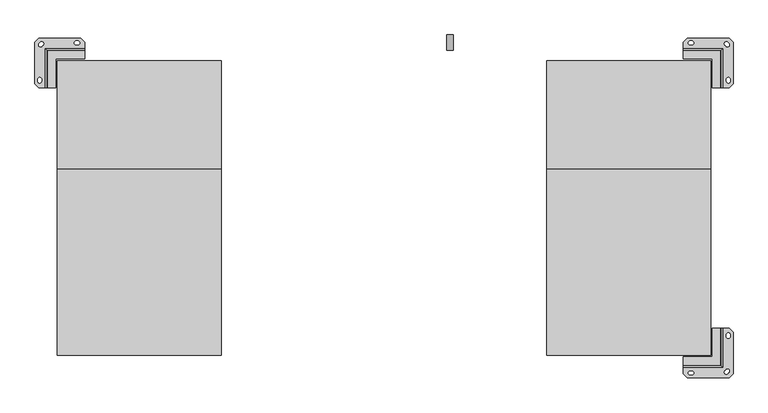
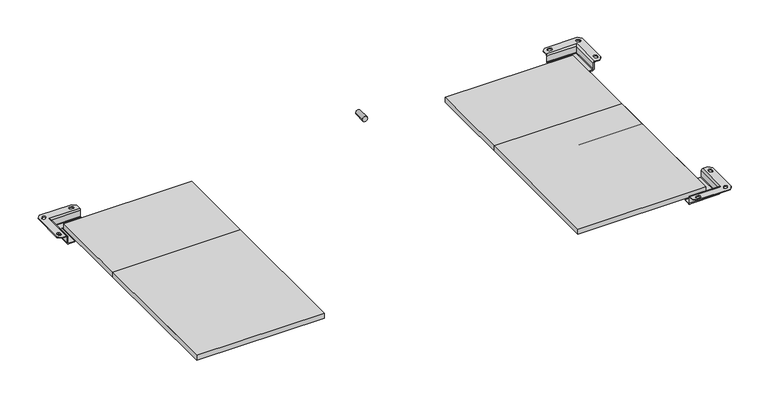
"""IFC4 building model written with IfcOpenShell, lengths in millimetres: proxy geometry, EMC_VEN_CLEVA 2.0_Right_V2 : CLEVA 1500 2.0 Right."""

from ifc_helpers import new_model, si_unit, point, frame, frame_2d, origin, origin_with_axes, place, context, project, spatial, polyline, circle_curve, ellipse_curve, trimmed, segment, composite_curve, outline, extrude, source, transform, mapped, element, save
from ifc_brep_helpers import plane_surface, cylinder_surface, revolved_surface, advanced_brep


def mechanical_equipment_8fb162d6(model_context):
    return source(origin(), model_context, "Body", "SolidModel", [
        extrude(outline(polyline([(495.0, -448.0), (495.0, 118.0), (993.0, 118.0), (993.0, -448.0), (495.0, -448.0)])), origin_with_axes(), (0.0, 0.0, 1.0), 20.0),
        extrude(outline(polyline([(-495.0, -448.0), (-993.0, -448.0), (-993.0, 118.0), (-495.0, 118.0), (-495.0, -448.0)])), origin_with_axes(), (0.0, 0.0, 1.0), 20.0),
        extrude(outline(polyline([(495.0, 448.0), (993.0, 448.0), (993.0, -20.0), (495.0, -20.0), (495.0, 448.0)])), origin_with_axes(), (0.0, 0.0, 1.0), 20.0),
        extrude(outline(polyline([(-495.0, 448.0), (-495.0, -20.0), (-993.0, -20.0), (-993.0, 448.0), (-495.0, 448.0)])), origin_with_axes(), (0.0, 0.0, 1.0), 20.0),
        extrude(outline(polyline([(495.0, -448.0), (495.0, -50.0), (993.0, -50.0), (993.0, -448.0), (495.0, -448.0)])), origin_with_axes(), (0.0, 0.0, 1.0), 20.0),
        extrude(outline(polyline([(-495.0, -448.0), (-993.0, -448.0), (-993.0, -50.0), (-495.0, -50.0), (-495.0, -448.0)])), origin_with_axes(), (0.0, 0.0, 1.0), 20.0),
        extrude(outline(composite_curve([segment(trimmed(circle_curve(frame_2d((15.0, 200.0)), 10.0), [point((15.0, 210.0))], [point((15.0, 190.0))], False, "CARTESIAN"), True, "CONTINUOUS"), segment(trimmed(circle_curve(frame_2d((15.0, 200.0)), 10.0), [point((15.0, 190.0))], [point((15.0, 210.0))], False, "CARTESIAN"), True, "CONTINUOUS")], self_intersect=False)), frame((0.0, 480.0, 0.0), z_axis=(0.0, 1.0, 0.0), x_axis=(0.0, 0.0, 1.0)), (0.0, 0.0, 1.0), 46.0),
        advanced_brep(
        [(1030.9879885, 365.1499884, 32.4276212), (1025.0, 365.1499884, 26.4156337), (1025.0, 365.1499884, 1.8540092), (1022.9960038, 365.1499884, -0.149987), (998.0023908, 365.1499884, -0.149987), (998.0023908, 365.1499884, -3.149981), (1021.9879811, 365.1499884, -3.149981), (1027.9999806, 365.1499884, 2.850007), (1027.999994, 365.1499884, 26.4336329), (1030.9939883, 365.1499884, 29.4276272), (1049.1500152, 365.1499884, 29.4276272), (1049.1500152, 365.1499884, 32.4276212), (1061.1499912, 377.1499898, 29.4276272), (1061.1499912, 504.1499898, 29.4276272), (1061.1499912, 504.1499898, 32.4276212), (1061.1499912, 377.1499898, 32.4276212), (910.1500138, 485.9879885, 32.4276212), (1030.9879885, 485.9879885, 32.4276212), (1049.1500152, 516.1499912, 32.4276212), (922.1500152, 516.1499912, 32.4276212), (910.1500138, 504.1499898, 32.4276212), (935.6500136, 507.6499948, 32.4276212), (935.6380141, 495.6500068, 32.4276212), (930.6619977, 495.6500068, 32.4276212), (930.6499982, 507.6499948, 32.4276212), (1044.8972231, 503.4322052, 32.4276212), (1048.4413867, 499.888067, 32.4276212), (1039.9515297, 491.4073661, 32.4276212), (1036.4119618, 494.9469136, 32.4276212), (1040.6500068, 390.6379887, 32.4276212), (1052.6499948, 390.6499882, 32.4276212), (1052.6500082, 385.6499982, 32.4276212), (1040.6500068, 385.6379987, 32.4276212), (1025.0, 480.0, 26.4156337), (1025.0, 480.0, 1.8540092), (1022.9960038, 477.9960038, -0.149987), (910.1500138, 477.9960038, -0.149987), (910.1500138, 453.0023908, -0.149987), (998.0023908, 453.0023908, -0.149987), (998.0023908, 453.0023908, -3.149981), (910.1500138, 453.0023908, -3.149981), (910.1500138, 476.9879811, -3.149981), (1021.9879811, 476.9879811, -3.149981), (1027.9999806, 482.9999806, 2.850007), (1027.999994, 482.999994, 26.4336329), (1030.9939883, 485.9939883, 29.4276272), (910.1500138, 485.9939883, 29.4276272), (910.1500138, 504.1499898, 29.4276272), (922.1500152, 516.1499912, 29.4276272), (1049.1500152, 516.1499912, 29.4276272), (935.6380141, 495.6500068, 29.4276272), (935.6500136, 507.6499948, 29.4276272), (930.6499982, 507.6500082, 29.4276272), (930.6619977, 495.6500068, 29.4276272), (1048.4413867, 499.888067, 29.4276272), (1044.8972231, 503.4322052, 29.4276272), (1036.4119618, 494.9469136, 29.4276272), (1039.9515195, 491.4073559, 29.4276272), (1052.6499948, 390.6499882, 29.4276272), (1040.6500068, 390.6379887, 29.4276272), (1040.6500068, 385.6379987, 29.4276272), (1052.6499948, 385.6499982, 29.4276272), (910.1500138, 480.0, 1.8540092), (910.1500138, 480.0, 26.4156337), (910.1500138, 482.999994, 26.4336329), (910.1500138, 482.999994, 2.850007)],
        [
            (0, 1, circle_curve(frame((1030.999988, 365.1499884, 26.4276332), z_axis=(0.0, -1.0, 0.0), x_axis=(-1.0, 0.0, 0.0)), 6.0)),
            (1, 2),
            (2, 3, circle_curve(frame((1023.000004, 365.1499884, 1.850009), z_axis=(0.0, 1.0, 0.0), x_axis=(-1.0, 0.0, 0.0)), 2.0)),
            (3, 4),
            (4, 5),
            (5, 6),
            (6, 7, circle_curve(frame((1021.9999806, 365.1499884, 2.850007), z_axis=(0.0, -1.0, 0.0), x_axis=(-1.0, 0.0, 0.0)), 6.0)),
            (7, 8),
            (8, 9, circle_curve(frame((1030.999988, 365.1499884, 26.4276332), z_axis=(0.0, 1.0, 0.0), x_axis=(-1.0, 0.0, 0.0)), 3.0)),
            (9, 10),
            (10, 11),
            (11, 0),
            (12, 13),
            (13, 14),
            (14, 15),
            (15, 12),
            (16, 17),
            (17, 0),
            (11, 15),
            (14, 18),
            (18, 19),
            (19, 20),
            (20, 16),
            (21, 22, circle_curve(frame((935.6500136, 501.6499948, 32.4276212), z_axis=(0.0, 0.0, -1.0), x_axis=(-1.0, 0.0, 0.0)), 6.0)),
            (22, 23),
            (23, 24, circle_curve(frame((930.6499982, 501.6499948, 32.4276212), z_axis=(0.0, 0.0, -1.0), x_axis=(-1.0, 0.0, 0.0)), 6.0)),
            (24, 21),
            (25, 26),
            (26, 27, circle_curve(frame((1044.1941704, 495.6500068, 32.4276212), z_axis=(0.0, 0.0, -1.0), x_axis=(-1.0, 0.0, 0.0)), 6.0)),
            (27, 28),
            (28, 25, circle_curve(frame((1040.6500068, 499.194145, 32.4276212), z_axis=(0.0, 0.0, -1.0), x_axis=(-1.0, 0.0, 0.0)), 6.0)),
            (29, 30, circle_curve(frame((1046.6499948, 390.6499882, 32.4276212), z_axis=(0.0, 0.0, -1.0), x_axis=(-1.0, 0.0, 0.0)), 6.0)),
            (30, 31),
            (31, 32, circle_curve(frame((1046.6499948, 385.6499982, 32.4276212), z_axis=(0.0, 0.0, -1.0), x_axis=(-1.0, 0.0, 0.0)), 6.0)),
            (32, 29),
            (17, 33, ellipse_curve(frame((1030.999988, 485.999988, 26.4276332), z_axis=(0.7071067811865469, -0.707106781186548, 0.0), x_axis=(-0.7071067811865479, -0.7071067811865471, 0.0)), 8.4852814, 6.0)),
            (33, 1),
            (33, 34),
            (34, 2),
            (34, 35, ellipse_curve(frame((1023.000004, 478.000004, 1.850009), z_axis=(-0.7071067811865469, 0.707106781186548, 0.0), x_axis=(0.7071067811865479, 0.7071067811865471, 0.0)), 2.8284271, 2.0)),
            (35, 3),
            (35, 36),
            (36, 37),
            (37, 38),
            (38, 4),
            (38, 39),
            (39, 5),
            (39, 40),
            (40, 41),
            (41, 42),
            (42, 6),
            (42, 43, ellipse_curve(frame((1021.9999806, 476.9999806, 2.850007), z_axis=(0.7071067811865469, -0.707106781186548, 0.0), x_axis=(-0.7071067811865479, -0.7071067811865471, 0.0)), 8.4852814, 6.0)),
            (43, 7),
            (43, 44),
            (44, 8),
            (44, 45, ellipse_curve(frame((1030.999988, 485.999988, 26.4276332), z_axis=(-0.7071067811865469, 0.707106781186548, 0.0), x_axis=(0.7071067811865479, 0.7071067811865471, 0.0)), 4.2426407, 3.0)),
            (45, 9),
            (45, 46),
            (46, 47),
            (47, 48),
            (48, 49),
            (49, 13),
            (12, 10),
            (50, 51, circle_curve(frame((935.6500136, 501.6499948, 29.4276272), z_axis=(0.0, 0.0, 1.0), x_axis=(-1.0, 0.0, 0.0)), 6.0)),
            (51, 52),
            (52, 53, circle_curve(frame((930.6499982, 501.6499948, 29.4276272), z_axis=(0.0, 0.0, 1.0), x_axis=(-1.0, 0.0, 0.0)), 6.0)),
            (53, 50),
            (54, 55),
            (55, 56, circle_curve(frame((1040.6500068, 499.194145, 29.4276272), z_axis=(0.0, 0.0, 1.0), x_axis=(-1.0, 0.0, 0.0)), 6.0)),
            (56, 57),
            (57, 54, circle_curve(frame((1044.1941704, 495.6500068, 29.4276272), z_axis=(0.0, 0.0, 1.0), x_axis=(-1.0, 0.0, 0.0)), 6.0)),
            (58, 59, circle_curve(frame((1046.6499948, 390.6499882, 29.4276272), z_axis=(0.0, 0.0, 1.0), x_axis=(-1.0, 0.0, 0.0)), 6.0)),
            (59, 60),
            (60, 61, circle_curve(frame((1046.6499948, 385.6499982, 29.4276272), z_axis=(0.0, 0.0, 1.0), x_axis=(-1.0, 0.0, 0.0)), 6.0)),
            (61, 58),
            (36, 62, circle_curve(frame((910.1500138, 478.000004, 1.850009), z_axis=(1.0, 0.0, 0.0), x_axis=(0.0, -1.0, 0.0)), 2.0)),
            (62, 63),
            (63, 16, circle_curve(frame((910.1500138, 485.999988, 26.4276332), z_axis=(-1.0, 0.0, 0.0), x_axis=(0.0, -1.0, 0.0)), 6.0)),
            (20, 47),
            (46, 64, circle_curve(frame((910.1500138, 485.999988, 26.4276332), z_axis=(1.0, 0.0, 0.0), x_axis=(0.0, -1.0, 0.0)), 3.0)),
            (64, 65),
            (65, 41, circle_curve(frame((910.1500138, 476.9999806, 2.850007), z_axis=(-1.0, 0.0, 0.0), x_axis=(0.0, -1.0, 0.0)), 6.0)),
            (40, 37),
            (18, 49),
            (48, 19),
            (63, 33),
            (62, 34),
            (65, 43),
            (64, 44),
            (50, 22),
            (21, 51),
            (24, 52),
            (23, 53),
            (54, 26),
            (25, 55),
            (28, 56),
            (27, 57),
            (58, 30),
            (29, 59),
            (32, 60),
            (31, 61),
        ],
        [
            plane_surface(frame((1025.0, 365.1499884, 0.0), z_axis=(0.0, -1.0, 0.0), x_axis=(0.0, 0.0, 1.0))),
            plane_surface(frame((1061.1499912, 365.1499884, 29.4276272), z_axis=(1.0, 0.0, 0.0), x_axis=(0.0, 1.0, 0.0))),
            plane_surface(frame((1061.1499912, 365.1499884, 32.4276212), z_axis=(0.0, 0.0, 1.0), x_axis=(0.0, 1.0, 0.0))),
            cylinder_surface(frame((1030.999988, 365.1499884, 26.4276332), z_axis=(0.0, -1.0, 0.0), x_axis=(-1.0, 0.0, 0.0)), 6.0),
            plane_surface(frame((1025.0, 365.1499884, 26.4156337), z_axis=(-1.0, 0.0, 0.0), x_axis=(0.0, 1.0, 0.0))),
            revolved_surface(polyline([(1021.000004, 480.00000398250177, 1.850009), (1021.000004, 365.1499884, 1.850009)]), (1023.000004, 365.1499884, 1.850009), (0.0, 1.0, 0.0)),
            plane_surface(frame((1022.9960038, 365.1499884, -0.149987), z_axis=(0.0, 0.0, 1.0), x_axis=(0.0, 1.0, 0.0))),
            plane_surface(frame((998.0023908, 365.1499884, -0.149987), z_axis=(-1.0, 0.0, 0.0), x_axis=(0.0, 1.0, 0.0))),
            plane_surface(frame((998.0023908, 365.1499884, -3.149981), z_axis=(0.0, 0.0, -1.0), x_axis=(0.0, 1.0, 0.0))),
            cylinder_surface(frame((1021.9999806, 365.1499884, 2.850007), z_axis=(0.0, -1.0, 0.0), x_axis=(-1.0, 0.0, 0.0)), 6.0),
            plane_surface(frame((1027.999994, 365.1499884, 2.850007), z_axis=(1.0, 0.0, 0.0), x_axis=(0.0, 1.0, 0.0))),
            revolved_surface(polyline([(1027.999988, 488.999988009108, 26.4276332), (1027.999988, 365.1499884, 26.4276332)]), (1030.999988, 365.1499884, 26.4276332), (0.0, 1.0, 0.0)),
            plane_surface(frame((1030.9939883, 365.1499884, 29.4276272), z_axis=(0.0, 0.0, -1.0), x_axis=(0.0, 1.0, 0.0))),
            plane_surface(frame((910.1500138, 480.0, 0.0), z_axis=(-1.0, 0.0, 0.0), x_axis=(0.0, 0.0, 1.0))),
            plane_surface(frame((1061.1499912, 516.1499912, 29.4276272), z_axis=(0.0, 1.0, 0.0), x_axis=(-1.0, 0.0, 0.0))),
            cylinder_surface(frame((1025.0, 485.999988, 26.4276332), z_axis=(1.0, 0.0, 0.0), x_axis=(0.0, -1.0, 0.0)), 6.0),
            plane_surface(frame((1025.0, 480.0, 26.4156337), z_axis=(0.0, -1.0, 0.0), x_axis=(-1.0, 0.0, 0.0))),
            revolved_surface(polyline([(910.1500138, 476.000004, 1.850009), (1025.0000039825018, 476.000004, 1.850009)]), (1025.0, 478.000004, 1.850009), (-1.0, 0.0, 0.0)),
            plane_surface(frame((998.0023908, 453.0023908, -0.149987), z_axis=(0.0, -1.0, 0.0), x_axis=(-1.0, 0.0, 0.0))),
            cylinder_surface(frame((1025.0, 476.9999806, 2.850007), z_axis=(1.0, 0.0, 0.0), x_axis=(0.0, -1.0, 0.0)), 6.0),
            plane_surface(frame((1027.999994, 482.999994, 2.850007), z_axis=(0.0, 1.0, 0.0), x_axis=(-1.0, 0.0, 0.0))),
            revolved_surface(polyline([(910.1500138, 482.999988, 26.4276332), (1033.9999880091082, 482.999988, 26.4276332)]), (1025.0, 485.999988, 26.4276332), (-1.0, 0.0, 0.0)),
            plane_surface(frame((1061.1499912, 377.1499898, 250.0), z_axis=(0.7071075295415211, -0.7071060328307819, 0.0), x_axis=(0.0, 0.0, -1.0))),
            plane_surface(frame((898.432152, 492.432128, 250.0), z_axis=(-0.7071067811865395, 0.7071067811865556, 0.0), x_axis=(0.0, 0.0, -1.0))),
            plane_surface(frame((1049.1500152, 516.1499912, 250.0), z_axis=(0.7071075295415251, 0.7071060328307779, 0.0), x_axis=(0.0, 0.0, -1.0))),
            revolved_surface(polyline([(929.6500136, 501.6499948, 32.4276212), (929.6500136, 501.6499948, 29.4276272)]), (935.6500136, 501.6499948, 0.0), (0.0, 0.0, 1.0)),
            plane_surface(frame((935.6500136, 507.6500082, 250.0), z_axis=(0.0, -1.0, 0.0), x_axis=(0.0, 0.0, -1.0))),
            revolved_surface(polyline([(924.6499982, 501.6499948, 32.4276212), (924.6499982, 501.6499948, 29.4276272)]), (930.6499982, 501.6499948, 0.0), (0.0, 0.0, 1.0)),
            plane_surface(frame((930.6619977, 495.6500068, 250.0), z_axis=(0.0, 1.0, 0.0), x_axis=(0.0, 0.0, -1.0))),
            plane_surface(frame((1048.4413867, 499.888067, 250.0), z_axis=(-0.7071042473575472, -0.7071093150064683, 0.0), x_axis=(0.0, 0.0, -1.0))),
            revolved_surface(polyline([(1034.6500068, 499.194145, 32.4276212), (1034.6500068, 499.194145, 29.4276272)]), (1040.6500068, 499.194145, 0.0), (0.0, 0.0, 1.0)),
            plane_surface(frame((1036.4119618, 494.9469136, 250.0), z_axis=(0.7071067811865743, 0.7071067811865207, 0.0), x_axis=(0.0, 0.0, -1.0))),
            revolved_surface(polyline([(1038.1941704, 495.6500068, 32.4276212), (1038.1941704, 495.6500068, 29.4276272)]), (1044.1941704, 495.6500068, 0.0), (0.0, 0.0, 1.0)),
            revolved_surface(polyline([(1040.6499948, 390.6499882, 32.4276212), (1040.6499948, 390.6499882, 29.4276272)]), (1046.6499948, 390.6499882, 0.0), (0.0, 0.0, 1.0)),
            plane_surface(frame((1040.6500068, 390.6379887, 250.0), z_axis=(1.0, 0.0, 0.0), x_axis=(0.0, 0.0, -1.0))),
            revolved_surface(polyline([(1040.6499948, 385.6499982, 32.4276212), (1040.6499948, 385.6499982, 29.4276272)]), (1046.6499948, 385.6499982, 0.0), (0.0, 0.0, 1.0)),
            plane_surface(frame((1052.6500082, 385.6499982, 250.0), z_axis=(-1.0, 0.0, 0.0), x_axis=(0.0, 0.0, -1.0))),
        ],
        [
            (0, [[1, 2, 3, 4, 5, 6, 7, 8, 9, 10, 11, 12]]),
            (1, [[13, 14, 15, 16]]),
            (2, [[17, 18, -12, 19, -15, 20, 21, 22, 23], [24, 25, 26, 27], [28, 29, 30, 31], [32, 33, 34, 35]]),
            (3, [[-1, -18, 36, 37]]),
            (4, [[-2, -37, 38, 39]]),
            (5, [[-3, -39, 40, 41]]),
            (6, [[-4, -41, 42, 43, 44, 45]]),
            (7, [[-5, -45, 46, 47]]),
            (8, [[-6, -47, 48, 49, 50, 51]]),
            (9, [[-7, -51, 52, 53]]),
            (10, [[-8, -53, 54, 55]]),
            (11, [[-9, -55, 56, 57]]),
            (12, [[-57, 58, 59, 60, 61, 62, -13, 63, -10], [64, 65, 66, 67], [68, 69, 70, 71], [72, 73, 74, 75]]),
            (13, [[-43, 76, 77, 78, -23, 79, -59, 80, 81, 82, -49, 83]]),
            (14, [[-21, 84, -61, 85]]),
            (15, [[-17, -78, 86, -36]]),
            (16, [[-38, -86, -77, 87]]),
            (17, [[-40, -87, -76, -42]]),
            (18, [[-44, -83, -48, -46]]),
            (19, [[-50, -82, 88, -52]]),
            (20, [[-54, -88, -81, 89]]),
            (21, [[-56, -89, -80, -58]]),
            (22, [[-11, -63, -16, -19]]),
            (23, [[-22, -85, -60, -79]]),
            (24, [[-14, -62, -84, -20]]),
            (25, [[90, -24, 91, -64]]),
            (26, [[-91, -27, 92, -65]]),
            (27, [[-92, -26, 93, -66]]),
            (28, [[-90, -67, -93, -25]]),
            (29, [[94, -28, 95, -68]]),
            (30, [[-95, -31, 96, -69]]),
            (31, [[-96, -30, 97, -70]]),
            (32, [[-94, -71, -97, -29]]),
            (33, [[98, -32, 99, -72]]),
            (34, [[-99, -35, 100, -73]]),
            (35, [[-100, -34, 101, -74]]),
            (36, [[-98, -75, -101, -33]]),
        ],
    ),
        advanced_brep(
        [(-1030.9879885, 365.1499884, 32.4276212), (-1049.1500152, 365.1499884, 32.4276212), (-1049.1500152, 365.1499884, 29.4276272), (-1030.9939883, 365.1499884, 29.4276272), (-1027.999994, 365.1499884, 26.4336329), (-1027.999994, 365.1499884, 2.850007), (-1021.9879811, 365.1499884, -3.149981), (-998.0023908, 365.1499884, -3.149981), (-998.0023908, 365.1499884, -0.149987), (-1022.9960038, 365.1499884, -0.149987), (-1025.0, 365.1499884, 1.8540092), (-1025.0, 365.1499884, 26.4156337), (-1061.1499912, 377.1499898, 29.4276272), (-1061.1499912, 377.1499898, 32.4276212), (-1061.1499912, 504.1499898, 32.4276212), (-1061.1499912, 504.1499898, 29.4276272), (-910.1500138, 485.9879885, 32.4276212), (-910.1500138, 504.1499898, 32.4276212), (-922.1500152, 516.1499912, 32.4276212), (-1049.1500152, 516.1499912, 32.4276212), (-1030.9879885, 485.9879885, 32.4276212), (-935.6500136, 507.6500082, 32.4276212), (-930.6499982, 507.6500082, 32.4276212), (-930.6619977, 495.6500068, 32.4276212), (-935.6380141, 495.6500068, 32.4276212), (-1044.8972231, 503.4322052, 32.4276212), (-1036.4119618, 494.9469136, 32.4276212), (-1039.9515195, 491.4073559, 32.4276212), (-1048.4413867, 499.888067, 32.4276212), (-1040.6500068, 390.6379887, 32.4276212), (-1040.6500068, 385.6379987, 32.4276212), (-1052.6499948, 385.6499982, 32.4276212), (-1052.6500082, 390.6499882, 32.4276212), (-1025.0, 480.0, 26.4156337), (-1025.0, 480.0, 1.8540092), (-1022.9960038, 477.9960038, -0.149987), (-998.0023908, 453.0023908, -0.149987), (-910.1500138, 453.0023908, -0.149987), (-910.1500138, 477.9960038, -0.149987), (-998.0023908, 453.0023908, -3.149981), (-1021.9879811, 476.9879811, -3.149981), (-910.1500138, 476.9879811, -3.149981), (-910.1500138, 453.0023908, -3.149981), (-1027.9999806, 482.999994, 2.850007), (-1027.999994, 482.999994, 26.4336329), (-1030.9939883, 485.9939883, 29.4276272), (-1049.1500152, 516.1499912, 29.4276272), (-922.1500152, 516.1499912, 29.4276272), (-910.1500138, 504.1499898, 29.4276272), (-910.1500138, 485.9939883, 29.4276272), (-935.6380141, 495.6500068, 29.4276272), (-930.6619977, 495.6500068, 29.4276272), (-930.6499982, 507.6499948, 29.4276272), (-935.6500136, 507.6500082, 29.4276272), (-1048.4413867, 499.888067, 29.4276272), (-1039.9515297, 491.4073661, 29.4276272), (-1036.4119618, 494.9469136, 29.4276272), (-1044.8972231, 503.4322052, 29.4276272), (-1052.6500082, 390.6499882, 29.4276272), (-1052.6500082, 385.6499982, 29.4276272), (-1040.6500068, 385.6379987, 29.4276272), (-1040.6500068, 390.6379887, 29.4276272), (-910.1500138, 482.9999806, 2.850007), (-910.1500138, 482.999994, 26.4336329), (-910.1500138, 480.0, 26.4156337), (-910.1500138, 480.0, 1.8540092)],
        [
            (0, 1),
            (1, 2),
            (2, 3),
            (3, 4, circle_curve(frame((-1030.999988, 365.1499884, 26.4276332), z_axis=(0.0, 1.0, 0.0), x_axis=(1.0, 0.0, 0.0)), 3.0)),
            (4, 5),
            (5, 6, circle_curve(frame((-1021.9999806, 365.1499884, 2.850007), z_axis=(0.0, -1.0, 0.0), x_axis=(1.0, 0.0, 0.0)), 6.0)),
            (6, 7),
            (7, 8),
            (8, 9),
            (9, 10, circle_curve(frame((-1023.000004, 365.1499884, 1.850009), z_axis=(0.0, 1.0, 0.0), x_axis=(1.0, 0.0, 0.0)), 2.0)),
            (10, 11),
            (11, 0, circle_curve(frame((-1030.999988, 365.1499884, 26.4276332), z_axis=(0.0, -1.0, 0.0), x_axis=(1.0, 0.0, 0.0)), 6.0)),
            (12, 13),
            (13, 14),
            (14, 15),
            (15, 12),
            (16, 17),
            (17, 18),
            (18, 19),
            (19, 14),
            (13, 1),
            (0, 20),
            (20, 16),
            (21, 22),
            (22, 23, circle_curve(frame((-930.6499982, 501.6499948, 32.4276212), z_axis=(0.0, 0.0, -1.0), x_axis=(1.0, 0.0, 0.0)), 6.0)),
            (23, 24),
            (24, 21, circle_curve(frame((-935.6500136, 501.6499948, 32.4276212), z_axis=(0.0, 0.0, -1.0), x_axis=(1.0, 0.0, 0.0)), 6.0)),
            (25, 26, circle_curve(frame((-1040.6500068, 499.194145, 32.4276212), z_axis=(0.0, 0.0, -1.0), x_axis=(1.0, 0.0, 0.0)), 6.0)),
            (26, 27),
            (27, 28, circle_curve(frame((-1044.1941704, 495.6500068, 32.4276212), z_axis=(0.0, 0.0, -1.0), x_axis=(1.0, 0.0, 0.0)), 6.0)),
            (28, 25),
            (29, 30),
            (30, 31, circle_curve(frame((-1046.6499948, 385.6499982, 32.4276212), z_axis=(0.0, 0.0, -1.0), x_axis=(1.0, 0.0, 0.0)), 6.0)),
            (31, 32),
            (32, 29, circle_curve(frame((-1046.6499948, 390.6499882, 32.4276212), z_axis=(0.0, 0.0, -1.0), x_axis=(1.0, 0.0, 0.0)), 6.0)),
            (11, 33),
            (33, 20, ellipse_curve(frame((-1030.999988, 485.999988, 26.4276332), z_axis=(-0.7071067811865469, -0.707106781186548, 0.0), x_axis=(0.7071067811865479, -0.7071067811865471, 0.0)), 8.4852814, 6.0)),
            (10, 34),
            (34, 33),
            (9, 35),
            (35, 34, ellipse_curve(frame((-1023.000004, 478.000004, 1.850009), z_axis=(0.7071067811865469, 0.707106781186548, 0.0), x_axis=(-0.7071067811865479, 0.7071067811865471, 0.0)), 2.8284271, 2.0)),
            (8, 36),
            (36, 37),
            (37, 38),
            (38, 35),
            (7, 39),
            (39, 36),
            (6, 40),
            (40, 41),
            (41, 42),
            (42, 39),
            (5, 43),
            (43, 40, ellipse_curve(frame((-1021.9999806, 476.9999806, 2.850007), z_axis=(-0.7071067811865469, -0.707106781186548, 0.0), x_axis=(0.7071067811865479, -0.7071067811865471, 0.0)), 8.4852814, 6.0)),
            (4, 44),
            (44, 43),
            (3, 45),
            (45, 44, ellipse_curve(frame((-1030.999988, 485.999988, 26.4276332), z_axis=(0.7071067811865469, 0.707106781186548, 0.0), x_axis=(-0.7071067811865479, 0.7071067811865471, 0.0)), 4.2426407, 3.0)),
            (2, 12),
            (15, 46),
            (46, 47),
            (47, 48),
            (48, 49),
            (49, 45),
            (50, 51),
            (51, 52, circle_curve(frame((-930.6499982, 501.6499948, 29.4276272), z_axis=(0.0, 0.0, 1.0), x_axis=(1.0, 0.0, 0.0)), 6.0)),
            (52, 53),
            (53, 50, circle_curve(frame((-935.6500136, 501.6499948, 29.4276272), z_axis=(0.0, 0.0, 1.0), x_axis=(1.0, 0.0, 0.0)), 6.0)),
            (54, 55, circle_curve(frame((-1044.1941704, 495.6500068, 29.4276272), z_axis=(0.0, 0.0, 1.0), x_axis=(1.0, 0.0, 0.0)), 6.0)),
            (55, 56),
            (56, 57, circle_curve(frame((-1040.6500068, 499.194145, 29.4276272), z_axis=(0.0, 0.0, 1.0), x_axis=(1.0, 0.0, 0.0)), 6.0)),
            (57, 54),
            (58, 59),
            (59, 60, circle_curve(frame((-1046.6499948, 385.6499982, 29.4276272), z_axis=(0.0, 0.0, 1.0), x_axis=(1.0, 0.0, 0.0)), 6.0)),
            (60, 61),
            (61, 58, circle_curve(frame((-1046.6499948, 390.6499882, 29.4276272), z_axis=(0.0, 0.0, 1.0), x_axis=(1.0, 0.0, 0.0)), 6.0)),
            (37, 42),
            (41, 62, circle_curve(frame((-910.1500138, 476.9999806, 2.850007), z_axis=(1.0, 0.0, 0.0), x_axis=(0.0, -1.0, 0.0)), 6.0)),
            (62, 63),
            (63, 49, circle_curve(frame((-910.1500138, 485.999988, 26.4276332), z_axis=(-1.0, 0.0, 0.0), x_axis=(0.0, -1.0, 0.0)), 3.0)),
            (48, 17),
            (16, 64, circle_curve(frame((-910.1500138, 485.999988, 26.4276332), z_axis=(1.0, 0.0, 0.0), x_axis=(0.0, -1.0, 0.0)), 6.0)),
            (64, 65),
            (65, 38, circle_curve(frame((-910.1500138, 478.000004, 1.850009), z_axis=(-1.0, 0.0, 0.0), x_axis=(0.0, -1.0, 0.0)), 2.0)),
            (18, 47),
            (46, 19),
            (33, 64),
            (34, 65),
            (43, 62),
            (44, 63),
            (53, 21),
            (24, 50),
            (52, 22),
            (51, 23),
            (57, 25),
            (28, 54),
            (56, 26),
            (55, 27),
            (61, 29),
            (32, 58),
            (60, 30),
            (59, 31),
        ],
        [
            plane_surface(frame((-1025.0, 365.1499884, 0.0), z_axis=(0.0, -1.0, 0.0), x_axis=(0.0, 0.0, 1.0))),
            plane_surface(frame((-1061.1499912, 365.1499884, 29.4276272), z_axis=(-1.0, 0.0, 0.0), x_axis=(0.0, 1.0, 0.0))),
            plane_surface(frame((-1061.1499912, 365.1499884, 32.4276212), z_axis=(0.0, 0.0, 1.0), x_axis=(0.0, 1.0, 0.0))),
            cylinder_surface(frame((-1030.999988, 365.1499884, 26.4276332), z_axis=(0.0, -1.0, 0.0), x_axis=(1.0, 0.0, 0.0)), 6.0),
            plane_surface(frame((-1025.0, 365.1499884, 26.4156337), z_axis=(1.0, 0.0, 0.0), x_axis=(0.0, 1.0, 0.0))),
            revolved_surface(polyline([(-1021.000004, 480.00000398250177, 1.850009), (-1021.000004, 365.1499884, 1.850009)]), (-1023.000004, 365.1499884, 1.850009), (0.0, 1.0, 0.0)),
            plane_surface(frame((-1022.9960038, 365.1499884, -0.149987), z_axis=(0.0, 0.0, 1.0), x_axis=(0.0, 1.0, 0.0))),
            plane_surface(frame((-998.0023908, 365.1499884, -0.149987), z_axis=(1.0, 0.0, 0.0), x_axis=(0.0, 1.0, 0.0))),
            plane_surface(frame((-998.0023908, 365.1499884, -3.149981), z_axis=(0.0, 0.0, -1.0), x_axis=(0.0, 1.0, 0.0))),
            cylinder_surface(frame((-1021.9999806, 365.1499884, 2.850007), z_axis=(0.0, -1.0, 0.0), x_axis=(1.0, 0.0, 0.0)), 6.0),
            plane_surface(frame((-1027.999994, 365.1499884, 2.850007), z_axis=(-1.0, 0.0, 0.0), x_axis=(0.0, 1.0, 0.0))),
            revolved_surface(polyline([(-1027.999988, 488.999988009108, 26.4276332), (-1027.999988, 365.1499884, 26.4276332)]), (-1030.999988, 365.1499884, 26.4276332), (0.0, 1.0, 0.0)),
            plane_surface(frame((-1030.9939883, 365.1499884, 29.4276272), z_axis=(0.0, 0.0, -1.0), x_axis=(0.0, 1.0, 0.0))),
            plane_surface(frame((-910.1500138, 480.0, 0.0), z_axis=(1.0, 0.0, 0.0), x_axis=(0.0, 0.0, 1.0))),
            plane_surface(frame((-1061.1499912, 516.1499912, 29.4276272), z_axis=(0.0, 1.0, 0.0), x_axis=(1.0, 0.0, 0.0))),
            cylinder_surface(frame((-1025.0, 485.999988, 26.4276332), z_axis=(-1.0, 0.0, 0.0), x_axis=(0.0, -1.0, 0.0)), 6.0),
            plane_surface(frame((-1025.0, 480.0, 26.4156337), z_axis=(0.0, -1.0, 0.0), x_axis=(1.0, 0.0, 0.0))),
            revolved_surface(polyline([(-910.1500138, 476.000004, 1.850009), (-1025.0000039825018, 476.000004, 1.850009)]), (-1025.0, 478.000004, 1.850009), (1.0, 0.0, 0.0)),
            plane_surface(frame((-998.0023908, 453.0023908, -0.149987), z_axis=(0.0, -1.0, 0.0), x_axis=(1.0, 0.0, 0.0))),
            cylinder_surface(frame((-1025.0, 476.9999806, 2.850007), z_axis=(-1.0, 0.0, 0.0), x_axis=(0.0, -1.0, 0.0)), 6.0),
            plane_surface(frame((-1027.999994, 482.999994, 2.850007), z_axis=(0.0, 1.0, 0.0), x_axis=(1.0, 0.0, 0.0))),
            revolved_surface(polyline([(-910.1500138, 482.999988, 26.4276332), (-1033.9999880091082, 482.999988, 26.4276332)]), (-1025.0, 485.999988, 26.4276332), (1.0, 0.0, 0.0)),
            plane_surface(frame((-1061.1499912, 377.1499898, 250.0), z_axis=(-0.7071075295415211, -0.7071060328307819, 0.0), x_axis=(0.0, 0.0, -1.0))),
            plane_surface(frame((-898.432152, 492.432128, 250.0), z_axis=(0.7071067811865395, 0.7071067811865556, 0.0), x_axis=(0.0, 0.0, -1.0))),
            plane_surface(frame((-1049.1500152, 516.1499912, 250.0), z_axis=(-0.7071075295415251, 0.7071060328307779, 0.0), x_axis=(0.0, 0.0, -1.0))),
            revolved_surface(polyline([(-929.6500136, 501.6499948, 32.4276212), (-929.6500136, 501.6499948, 29.4276272)]), (-935.6500136, 501.6499948, 0.0), (0.0, 0.0, 1.0)),
            plane_surface(frame((-935.6500136, 507.6500082, 250.0), z_axis=(0.0, -1.0, 0.0), x_axis=(0.0, 0.0, -1.0))),
            revolved_surface(polyline([(-924.6499982, 501.6499948, 32.4276212), (-924.6499982, 501.6499948, 29.4276272)]), (-930.6499982, 501.6499948, 0.0), (0.0, 0.0, 1.0)),
            plane_surface(frame((-930.6619977, 495.6500068, 250.0), z_axis=(0.0, 1.0, 0.0), x_axis=(0.0, 0.0, -1.0))),
            plane_surface(frame((-1048.4413867, 499.888067, 250.0), z_axis=(0.7071042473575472, -0.7071093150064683, 0.0), x_axis=(0.0, 0.0, -1.0))),
            revolved_surface(polyline([(-1034.6500068, 499.194145, 32.4276212), (-1034.6500068, 499.194145, 29.4276272)]), (-1040.6500068, 499.194145, 0.0), (0.0, 0.0, 1.0)),
            plane_surface(frame((-1036.4119618, 494.9469136, 250.0), z_axis=(-0.7071067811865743, 0.7071067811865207, 0.0), x_axis=(0.0, 0.0, -1.0))),
            revolved_surface(polyline([(-1038.1941704, 495.6500068, 32.4276212), (-1038.1941704, 495.6500068, 29.4276272)]), (-1044.1941704, 495.6500068, 0.0), (0.0, 0.0, 1.0)),
            revolved_surface(polyline([(-1040.6499948, 390.6499882, 32.4276212), (-1040.6499948, 390.6499882, 29.4276272)]), (-1046.6499948, 390.6499882, 0.0), (0.0, 0.0, 1.0)),
            plane_surface(frame((-1040.6500068, 390.6379887, 250.0), z_axis=(-1.0, 0.0, 0.0), x_axis=(0.0, 0.0, -1.0))),
            revolved_surface(polyline([(-1040.6499948, 385.6499982, 32.4276212), (-1040.6499948, 385.6499982, 29.4276272)]), (-1046.6499948, 385.6499982, 0.0), (0.0, 0.0, 1.0)),
            plane_surface(frame((-1052.6500082, 385.6499982, 250.0), z_axis=(1.0, 0.0, 0.0), x_axis=(0.0, 0.0, -1.0))),
        ],
        [
            (0, [[1, 2, 3, 4, 5, 6, 7, 8, 9, 10, 11, 12]]),
            (1, [[13, 14, 15, 16]]),
            (2, [[17, 18, 19, 20, -14, 21, -1, 22, 23], [24, 25, 26, 27], [28, 29, 30, 31], [32, 33, 34, 35]]),
            (3, [[36, 37, -22, -12]]),
            (4, [[38, 39, -36, -11]]),
            (5, [[40, 41, -38, -10]]),
            (6, [[42, 43, 44, 45, -40, -9]]),
            (7, [[46, 47, -42, -8]]),
            (8, [[48, 49, 50, 51, -46, -7]]),
            (9, [[52, 53, -48, -6]]),
            (10, [[54, 55, -52, -5]]),
            (11, [[56, 57, -54, -4]]),
            (12, [[-3, 58, -16, 59, 60, 61, 62, 63, -56], [64, 65, 66, 67], [68, 69, 70, 71], [72, 73, 74, 75]]),
            (13, [[76, -50, 77, 78, 79, -62, 80, -17, 81, 82, 83, -44]]),
            (14, [[84, -60, 85, -19]]),
            (15, [[-37, 86, -81, -23]]),
            (16, [[87, -82, -86, -39]]),
            (17, [[-45, -83, -87, -41]]),
            (18, [[-47, -51, -76, -43]]),
            (19, [[-53, 88, -77, -49]]),
            (20, [[89, -78, -88, -55]]),
            (21, [[-63, -79, -89, -57]]),
            (22, [[-21, -13, -58, -2]]),
            (23, [[-80, -61, -84, -18]]),
            (24, [[-20, -85, -59, -15]]),
            (25, [[-67, 90, -27, 91]]),
            (26, [[-66, 92, -24, -90]]),
            (27, [[-65, 93, -25, -92]]),
            (28, [[-26, -93, -64, -91]]),
            (29, [[-71, 94, -31, 95]]),
            (30, [[-70, 96, -28, -94]]),
            (31, [[-69, 97, -29, -96]]),
            (32, [[-30, -97, -68, -95]]),
            (33, [[-75, 98, -35, 99]]),
            (34, [[-74, 100, -32, -98]]),
            (35, [[-73, 101, -33, -100]]),
            (36, [[-34, -101, -72, -99]]),
        ],
    ),
        advanced_brep(
        [(1030.9879885, -365.1499884, 32.4276212), (1049.1500152, -365.1499884, 32.4276212), (1049.1500152, -365.1499884, 29.4276272), (1030.9939883, -365.1499884, 29.4276272), (1027.999994, -365.1499884, 26.4336329), (1027.999994, -365.1499884, 2.850007), (1021.9879811, -365.1499884, -3.149981), (998.0023908, -365.1499884, -3.149981), (998.0023908, -365.1499884, -0.149987), (1022.9960038, -365.1499884, -0.149987), (1025.0, -365.1499884, 1.8540092), (1025.0, -365.1499884, 26.4156337), (1061.1499912, -377.1499898, 29.4276272), (1061.1499912, -377.1499898, 32.4276212), (1061.1499912, -504.1499898, 32.4276212), (1061.1499912, -504.1499898, 29.4276272), (910.1500138, -485.9879885, 32.4276212), (910.1500138, -504.1499898, 32.4276212), (922.1500152, -516.1499912, 32.4276212), (1049.1500152, -516.1499912, 32.4276212), (1030.9879885, -485.9879885, 32.4276212), (935.6500136, -507.6500082, 32.4276212), (930.6499982, -507.6500082, 32.4276212), (930.6619977, -495.6500068, 32.4276212), (935.6380141, -495.6500068, 32.4276212), (1044.8972231, -503.4322052, 32.4276212), (1036.4119618, -494.9469136, 32.4276212), (1039.9515195, -491.4073559, 32.4276212), (1048.4413867, -499.888067, 32.4276212), (1040.6500068, -390.6379887, 32.4276212), (1040.6500068, -385.6379987, 32.4276212), (1052.6499948, -385.6499982, 32.4276212), (1052.6500082, -390.6499882, 32.4276212), (1025.0, -480.0, 26.4156337), (1025.0, -480.0, 1.8540092), (1022.9960038, -477.9960038, -0.149987), (998.0023908, -453.0023908, -0.149987), (910.1500138, -453.0023908, -0.149987), (910.1500138, -477.9960038, -0.149987), (998.0023908, -453.0023908, -3.149981), (1021.9879811, -476.9879811, -3.149981), (910.1500138, -476.9879811, -3.149981), (910.1500138, -453.0023908, -3.149981), (1027.9999806, -482.999994, 2.850007), (1027.999994, -482.999994, 26.4336329), (1030.9939883, -485.9939883, 29.4276272), (1049.1500152, -516.1499912, 29.4276272), (922.1500152, -516.1499912, 29.4276272), (910.1500138, -504.1499898, 29.4276272), (910.1500138, -485.9939883, 29.4276272), (935.6380141, -495.6500068, 29.4276272), (930.6619977, -495.6500068, 29.4276272), (930.6499982, -507.6499948, 29.4276272), (935.6500136, -507.6500082, 29.4276272), (1048.4413867, -499.888067, 29.4276272), (1039.9515297, -491.4073661, 29.4276272), (1036.4119618, -494.9469136, 29.4276272), (1044.8972231, -503.4322052, 29.4276272), (1052.6500082, -390.6499882, 29.4276272), (1052.6500082, -385.6499982, 29.4276272), (1040.6500068, -385.6379987, 29.4276272), (1040.6500068, -390.6379887, 29.4276272), (910.1500138, -482.9999806, 2.850007), (910.1500138, -482.999994, 26.4336329), (910.1500138, -480.0, 26.4156337), (910.1500138, -480.0, 1.8540092)],
        [
            (0, 1),
            (1, 2),
            (2, 3),
            (3, 4, circle_curve(frame((1030.999988, -365.1499884, 26.4276332), z_axis=(0.0, -1.0, 0.0), x_axis=(-1.0, 0.0, 0.0)), 3.0)),
            (4, 5),
            (5, 6, circle_curve(frame((1021.9999806, -365.1499884, 2.850007), z_axis=(0.0, 1.0, 0.0), x_axis=(-1.0, 0.0, 0.0)), 6.0)),
            (6, 7),
            (7, 8),
            (8, 9),
            (9, 10, circle_curve(frame((1023.000004, -365.1499884, 1.850009), z_axis=(0.0, -1.0, 0.0), x_axis=(-1.0, 0.0, 0.0)), 2.0)),
            (10, 11),
            (11, 0, circle_curve(frame((1030.999988, -365.1499884, 26.4276332), z_axis=(0.0, 1.0, 0.0), x_axis=(-1.0, 0.0, 0.0)), 6.0)),
            (12, 13),
            (13, 14),
            (14, 15),
            (15, 12),
            (16, 17),
            (17, 18),
            (18, 19),
            (19, 14),
            (13, 1),
            (0, 20),
            (20, 16),
            (21, 22),
            (22, 23, circle_curve(frame((930.6499982, -501.6499948, 32.4276212), z_axis=(0.0, 0.0, -1.0), x_axis=(-1.0, 0.0, 0.0)), 6.0)),
            (23, 24),
            (24, 21, circle_curve(frame((935.6500136, -501.6499948, 32.4276212), z_axis=(0.0, 0.0, -1.0), x_axis=(-1.0, 0.0, 0.0)), 6.0)),
            (25, 26, circle_curve(frame((1040.6500068, -499.194145, 32.4276212), z_axis=(0.0, 0.0, -1.0), x_axis=(-1.0, 0.0, 0.0)), 6.0)),
            (26, 27),
            (27, 28, circle_curve(frame((1044.1941704, -495.6500068, 32.4276212), z_axis=(0.0, 0.0, -1.0), x_axis=(-1.0, 0.0, 0.0)), 6.0)),
            (28, 25),
            (29, 30),
            (30, 31, circle_curve(frame((1046.6499948, -385.6499982, 32.4276212), z_axis=(0.0, 0.0, -1.0), x_axis=(-1.0, 0.0, 0.0)), 6.0)),
            (31, 32),
            (32, 29, circle_curve(frame((1046.6499948, -390.6499882, 32.4276212), z_axis=(0.0, 0.0, -1.0), x_axis=(-1.0, 0.0, 0.0)), 6.0)),
            (11, 33),
            (33, 20, ellipse_curve(frame((1030.999988, -485.999988, 26.4276332), z_axis=(0.7071067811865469, 0.707106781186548, 0.0), x_axis=(-0.7071067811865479, 0.7071067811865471, 0.0)), 8.4852814, 6.0)),
            (10, 34),
            (34, 33),
            (9, 35),
            (35, 34, ellipse_curve(frame((1023.000004, -478.000004, 1.850009), z_axis=(-0.7071067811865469, -0.707106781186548, 0.0), x_axis=(0.7071067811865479, -0.7071067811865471, 0.0)), 2.8284271, 2.0)),
            (8, 36),
            (36, 37),
            (37, 38),
            (38, 35),
            (7, 39),
            (39, 36),
            (6, 40),
            (40, 41),
            (41, 42),
            (42, 39),
            (5, 43),
            (43, 40, ellipse_curve(frame((1021.9999806, -476.9999806, 2.850007), z_axis=(0.7071067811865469, 0.707106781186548, 0.0), x_axis=(-0.7071067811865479, 0.7071067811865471, 0.0)), 8.4852814, 6.0)),
            (4, 44),
            (44, 43),
            (3, 45),
            (45, 44, ellipse_curve(frame((1030.999988, -485.999988, 26.4276332), z_axis=(-0.7071067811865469, -0.707106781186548, 0.0), x_axis=(0.7071067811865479, -0.7071067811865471, 0.0)), 4.2426407, 3.0)),
            (2, 12),
            (15, 46),
            (46, 47),
            (47, 48),
            (48, 49),
            (49, 45),
            (50, 51),
            (51, 52, circle_curve(frame((930.6499982, -501.6499948, 29.4276272), z_axis=(0.0, 0.0, 1.0), x_axis=(-1.0, 0.0, 0.0)), 6.0)),
            (52, 53),
            (53, 50, circle_curve(frame((935.6500136, -501.6499948, 29.4276272), z_axis=(0.0, 0.0, 1.0), x_axis=(-1.0, 0.0, 0.0)), 6.0)),
            (54, 55, circle_curve(frame((1044.1941704, -495.6500068, 29.4276272), z_axis=(0.0, 0.0, 1.0), x_axis=(-1.0, 0.0, 0.0)), 6.0)),
            (55, 56),
            (56, 57, circle_curve(frame((1040.6500068, -499.194145, 29.4276272), z_axis=(0.0, 0.0, 1.0), x_axis=(-1.0, 0.0, 0.0)), 6.0)),
            (57, 54),
            (58, 59),
            (59, 60, circle_curve(frame((1046.6499948, -385.6499982, 29.4276272), z_axis=(0.0, 0.0, 1.0), x_axis=(-1.0, 0.0, 0.0)), 6.0)),
            (60, 61),
            (61, 58, circle_curve(frame((1046.6499948, -390.6499882, 29.4276272), z_axis=(0.0, 0.0, 1.0), x_axis=(-1.0, 0.0, 0.0)), 6.0)),
            (37, 42),
            (41, 62, circle_curve(frame((910.1500138, -476.9999806, 2.850007), z_axis=(-1.0, 0.0, 0.0), x_axis=(0.0, 1.0, 0.0)), 6.0)),
            (62, 63),
            (63, 49, circle_curve(frame((910.1500138, -485.999988, 26.4276332), z_axis=(1.0, 0.0, 0.0), x_axis=(0.0, 1.0, 0.0)), 3.0)),
            (48, 17),
            (16, 64, circle_curve(frame((910.1500138, -485.999988, 26.4276332), z_axis=(-1.0, 0.0, 0.0), x_axis=(0.0, 1.0, 0.0)), 6.0)),
            (64, 65),
            (65, 38, circle_curve(frame((910.1500138, -478.000004, 1.850009), z_axis=(1.0, 0.0, 0.0), x_axis=(0.0, 1.0, 0.0)), 2.0)),
            (18, 47),
            (46, 19),
            (33, 64),
            (34, 65),
            (43, 62),
            (44, 63),
            (53, 21),
            (24, 50),
            (52, 22),
            (51, 23),
            (57, 25),
            (28, 54),
            (56, 26),
            (55, 27),
            (61, 29),
            (32, 58),
            (60, 30),
            (59, 31),
        ],
        [
            plane_surface(frame((1025.0, -365.1499884, 0.0), z_axis=(0.0, 1.0, 0.0), x_axis=(0.0, 0.0, 1.0))),
            plane_surface(frame((1061.1499912, -365.1499884, 29.4276272), z_axis=(1.0, 0.0, 0.0), x_axis=(0.0, -1.0, 0.0))),
            plane_surface(frame((1061.1499912, -365.1499884, 32.4276212), z_axis=(0.0, 0.0, 1.0), x_axis=(0.0, -1.0, 0.0))),
            cylinder_surface(frame((1030.999988, -365.1499884, 26.4276332), z_axis=(0.0, 1.0, 0.0), x_axis=(-1.0, 0.0, 0.0)), 6.0),
            plane_surface(frame((1025.0, -365.1499884, 26.4156337), z_axis=(-1.0, 0.0, 0.0), x_axis=(0.0, -1.0, 0.0))),
            revolved_surface(polyline([(1021.000004, -480.00000398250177, 1.850009), (1021.000004, -365.1499884, 1.850009)]), (1023.000004, -365.1499884, 1.850009), (0.0, -1.0, 0.0)),
            plane_surface(frame((1022.9960038, -365.1499884, -0.149987), z_axis=(0.0, 0.0, 1.0), x_axis=(0.0, -1.0, 0.0))),
            plane_surface(frame((998.0023908, -365.1499884, -0.149987), z_axis=(-1.0, 0.0, 0.0), x_axis=(0.0, -1.0, 0.0))),
            plane_surface(frame((998.0023908, -365.1499884, -3.149981), z_axis=(0.0, 0.0, -1.0), x_axis=(0.0, -1.0, 0.0))),
            cylinder_surface(frame((1021.9999806, -365.1499884, 2.850007), z_axis=(0.0, 1.0, 0.0), x_axis=(-1.0, 0.0, 0.0)), 6.0),
            plane_surface(frame((1027.999994, -365.1499884, 2.850007), z_axis=(1.0, 0.0, 0.0), x_axis=(0.0, -1.0, 0.0))),
            revolved_surface(polyline([(1027.999988, -488.999988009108, 26.4276332), (1027.999988, -365.1499884, 26.4276332)]), (1030.999988, -365.1499884, 26.4276332), (0.0, -1.0, 0.0)),
            plane_surface(frame((1030.9939883, -365.1499884, 29.4276272), z_axis=(0.0, 0.0, -1.0), x_axis=(0.0, -1.0, 0.0))),
            plane_surface(frame((910.1500138, -480.0, 0.0), z_axis=(-1.0, 0.0, 0.0), x_axis=(0.0, 0.0, 1.0))),
            plane_surface(frame((1061.1499912, -516.1499912, 29.4276272), z_axis=(0.0, -1.0, 0.0), x_axis=(-1.0, 0.0, 0.0))),
            cylinder_surface(frame((1025.0, -485.999988, 26.4276332), z_axis=(1.0, 0.0, 0.0), x_axis=(0.0, 1.0, 0.0)), 6.0),
            plane_surface(frame((1025.0, -480.0, 26.4156337), z_axis=(0.0, 1.0, 0.0), x_axis=(-1.0, 0.0, 0.0))),
            revolved_surface(polyline([(910.1500138, -476.000004, 1.850009), (1025.0000039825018, -476.000004, 1.850009)]), (1025.0, -478.000004, 1.850009), (-1.0, 0.0, 0.0)),
            plane_surface(frame((998.0023908, -453.0023908, -0.149987), z_axis=(0.0, 1.0, 0.0), x_axis=(-1.0, 0.0, 0.0))),
            cylinder_surface(frame((1025.0, -476.9999806, 2.850007), z_axis=(1.0, 0.0, 0.0), x_axis=(0.0, 1.0, 0.0)), 6.0),
            plane_surface(frame((1027.999994, -482.999994, 2.850007), z_axis=(0.0, -1.0, 0.0), x_axis=(-1.0, 0.0, 0.0))),
            revolved_surface(polyline([(910.1500138, -482.999988, 26.4276332), (1033.9999880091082, -482.999988, 26.4276332)]), (1025.0, -485.999988, 26.4276332), (-1.0, 0.0, 0.0)),
            plane_surface(frame((1061.1499912, -377.1499898, 250.0), z_axis=(0.7071075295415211, 0.7071060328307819, 0.0), x_axis=(0.0, 0.0, -1.0))),
            plane_surface(frame((898.432152, -492.432128, 250.0), z_axis=(-0.7071067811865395, -0.7071067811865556, 0.0), x_axis=(0.0, 0.0, -1.0))),
            plane_surface(frame((1049.1500152, -516.1499912, 250.0), z_axis=(0.7071075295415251, -0.7071060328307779, 0.0), x_axis=(0.0, 0.0, -1.0))),
            revolved_surface(polyline([(929.6500136, -501.6499948, 32.4276212), (929.6500136, -501.6499948, 29.4276272)]), (935.6500136, -501.6499948, 0.0), (0.0, 0.0, 1.0)),
            plane_surface(frame((935.6500136, -507.6500082, 250.0), z_axis=(0.0, 1.0, 0.0), x_axis=(0.0, 0.0, -1.0))),
            revolved_surface(polyline([(924.6499982, -501.6499948, 32.4276212), (924.6499982, -501.6499948, 29.4276272)]), (930.6499982, -501.6499948, 0.0), (0.0, 0.0, 1.0)),
            plane_surface(frame((930.6619977, -495.6500068, 250.0), z_axis=(0.0, -1.0, 0.0), x_axis=(0.0, 0.0, -1.0))),
            plane_surface(frame((1048.4413867, -499.888067, 250.0), z_axis=(-0.7071042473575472, 0.7071093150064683, 0.0), x_axis=(0.0, 0.0, -1.0))),
            revolved_surface(polyline([(1034.6500068, -499.194145, 32.4276212), (1034.6500068, -499.194145, 29.4276272)]), (1040.6500068, -499.194145, 0.0), (0.0, 0.0, 1.0)),
            plane_surface(frame((1036.4119618, -494.9469136, 250.0), z_axis=(0.7071067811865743, -0.7071067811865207, 0.0), x_axis=(0.0, 0.0, -1.0))),
            revolved_surface(polyline([(1038.1941704, -495.6500068, 32.4276212), (1038.1941704, -495.6500068, 29.4276272)]), (1044.1941704, -495.6500068, 0.0), (0.0, 0.0, 1.0)),
            revolved_surface(polyline([(1040.6499948, -390.6499882, 32.4276212), (1040.6499948, -390.6499882, 29.4276272)]), (1046.6499948, -390.6499882, 0.0), (0.0, 0.0, 1.0)),
            plane_surface(frame((1040.6500068, -390.6379887, 250.0), z_axis=(1.0, 0.0, 0.0), x_axis=(0.0, 0.0, -1.0))),
            revolved_surface(polyline([(1040.6499948, -385.6499982, 32.4276212), (1040.6499948, -385.6499982, 29.4276272)]), (1046.6499948, -385.6499982, 0.0), (0.0, 0.0, 1.0)),
            plane_surface(frame((1052.6500082, -385.6499982, 250.0), z_axis=(-1.0, 0.0, 0.0), x_axis=(0.0, 0.0, -1.0))),
        ],
        [
            (0, [[1, 2, 3, 4, 5, 6, 7, 8, 9, 10, 11, 12]]),
            (1, [[13, 14, 15, 16]]),
            (2, [[17, 18, 19, 20, -14, 21, -1, 22, 23], [24, 25, 26, 27], [28, 29, 30, 31], [32, 33, 34, 35]]),
            (3, [[36, 37, -22, -12]]),
            (4, [[38, 39, -36, -11]]),
            (5, [[40, 41, -38, -10]]),
            (6, [[42, 43, 44, 45, -40, -9]]),
            (7, [[46, 47, -42, -8]]),
            (8, [[48, 49, 50, 51, -46, -7]]),
            (9, [[52, 53, -48, -6]]),
            (10, [[54, 55, -52, -5]]),
            (11, [[56, 57, -54, -4]]),
            (12, [[-3, 58, -16, 59, 60, 61, 62, 63, -56], [64, 65, 66, 67], [68, 69, 70, 71], [72, 73, 74, 75]]),
            (13, [[76, -50, 77, 78, 79, -62, 80, -17, 81, 82, 83, -44]]),
            (14, [[84, -60, 85, -19]]),
            (15, [[-37, 86, -81, -23]]),
            (16, [[87, -82, -86, -39]]),
            (17, [[-45, -83, -87, -41]]),
            (18, [[-47, -51, -76, -43]]),
            (19, [[-53, 88, -77, -49]]),
            (20, [[89, -78, -88, -55]]),
            (21, [[-63, -79, -89, -57]]),
            (22, [[-21, -13, -58, -2]]),
            (23, [[-80, -61, -84, -18]]),
            (24, [[-20, -85, -59, -15]]),
            (25, [[-67, 90, -27, 91]]),
            (26, [[-66, 92, -24, -90]]),
            (27, [[-65, 93, -25, -92]]),
            (28, [[-26, -93, -64, -91]]),
            (29, [[-71, 94, -31, 95]]),
            (30, [[-70, 96, -28, -94]]),
            (31, [[-69, 97, -29, -96]]),
            (32, [[-30, -97, -68, -95]]),
            (33, [[-75, 98, -35, 99]]),
            (34, [[-74, 100, -32, -98]]),
            (35, [[-73, 101, -33, -100]]),
            (36, [[-34, -101, -72, -99]]),
        ],
    ),
    ])


if __name__ == "__main__":
    model = new_model("IFC4")
    model_context = context("Model", 3, world=origin())
    ifc_project = project(units=[si_unit("LENGTHUNIT", "METRE", prefix="MILLI")], contexts=[model_context])
    site = spatial("IfcSite", under=ifc_project)
    building = spatial("IfcBuilding", under=site)
    placement = place(None, origin())
    mechanical_equipment_shape = mechanical_equipment_8fb162d6(model_context)
    element("IfcBuildingElementProxy", 1, Name="EMC_VEN_CLEVA 2.0_Right_V2 : CLEVA 1500 2.0 Right", ObjectType="EMC_VEN_CLEVA 2.0_Right_V2 : CLEVA 1500 2.0 Right", at=placement, inside=building, context=model_context, shape_type="MappedRepresentation", body=[
        mapped(mechanical_equipment_shape, transform((0.0, 0.0, 0.0), x_axis=(1.0, 0.0, 0.0), y_axis=(0.0, 1.0, 0.0), z_axis=(0.0, 0.0, 1.0))),
    ])
    save(model, "model.ifc")
